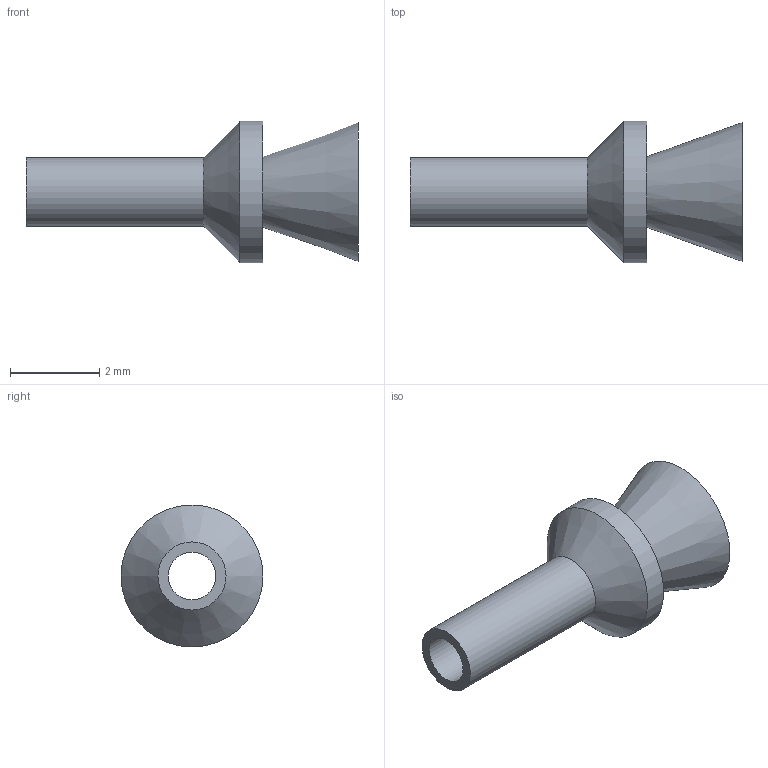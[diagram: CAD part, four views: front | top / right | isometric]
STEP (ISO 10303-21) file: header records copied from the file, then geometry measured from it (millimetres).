
FILE_DESCRIPTION(/* description */ (''),/* implementation_level */ '2;1');
FILE_NAME(/* name */ 'Z:\STEP folder\180-2755-04.ipt.stp',/* time_stamp */ '2016-12-07T16:17:33+00:00',/* author */ ('Paul Karlsons'),/* organization */ (''),/* preprocessor_version */ 'ST-DEVELOPER v15.2',/* originating_system */ 'Autodesk Inventor 2014',/* authorisation */ '');
FILE_SCHEMA (('AUTOMOTIVE_DESIGN { 1 0 10303 214 3 1 1 }'));
Length unit declared in the file: millimetre
Products named in the file (1): 180-2755-04
Bounding box: 7.43 x 3.17 x 3.17 mm (x, y, z)
Volume: 16.3 mm3; surface area: 87.4 mm2
Topology: 1 solids, 1 shells, 9 faces, 16 edges, 10 vertices
Faces by surface type: cone 3, cylinder 3, plane 3
Full cylindrical faces by diameter (mm): 1.067 x1, 1.524 x1, 3.175 x1
Entity records: 209 total; most frequent: DIRECTION 38, CARTESIAN_POINT 28, AXIS2_PLACEMENT_3D 19, EDGE_LOOP 18, ORIENTED_EDGE 18, FACE_BOUND 12, CIRCLE 9, VERTEX_POINT 9
